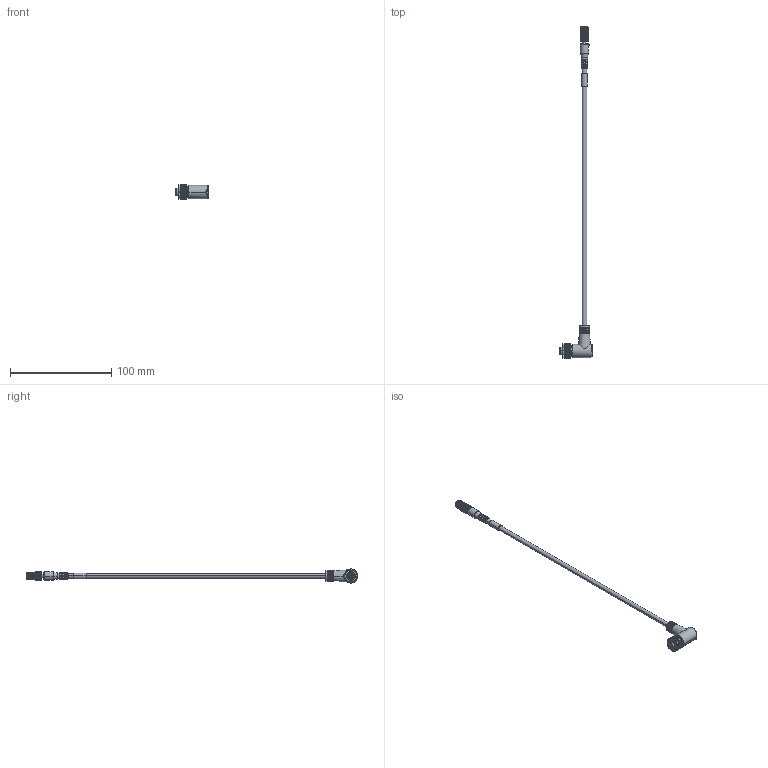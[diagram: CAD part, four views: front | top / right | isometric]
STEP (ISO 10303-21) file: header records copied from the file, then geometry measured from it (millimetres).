
FILE_DESCRIPTION((''),'2;1');
FILE_NAME('889D-R4UBPM-2_ASM','2015-03-23T',('20066374'),('Rockwell Automation'),'PRO/ENGINEER BY PARAMETRIC TECHNOLOGY CORPORATION, 2009140','PRO/ENGINEER BY PARAMETRIC TECHNOLOGY CORPORATION, 2009140','');
FILE_SCHEMA(('CONFIG_CONTROL_DESIGN'));
Length unit declared in the file: inch
Products named in the file (3): 889D-R4UB-2; 889P-M4UB-2; 889D-R4UBPM-2_ASM
Assembly tree (2 placements, depth 2):
  889D-R4UBPM-2_ASM
    889D-R4UB-2
    889P-M4UB-2
Bounding box: 31.75 x 327.24 x 13.88 mm (x, y, z)
Volume: 11228.4 mm3; surface area: 8398.2 mm2
Topology: 5 solids, 17 shells, 838 faces, 2102 edges, 1329 vertices
Faces by surface type: plane 377, cylinder 326, cone 90, torus 41, sphere 2, bspline 2
Entity records: 25978 total; most frequent: CARTESIAN_POINT 5638, DIRECTION 4370, ORIENTED_EDGE 4204, EDGE_CURVE 2102, AXIS2_PLACEMENT_3D 1659, VERTEX_POINT 1329, VECTOR 1052, LINE 1052
